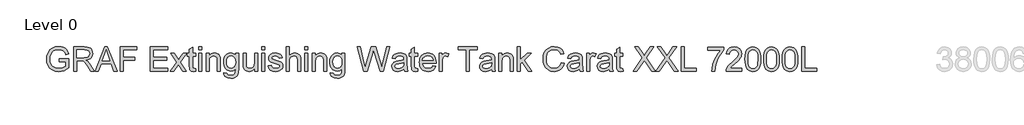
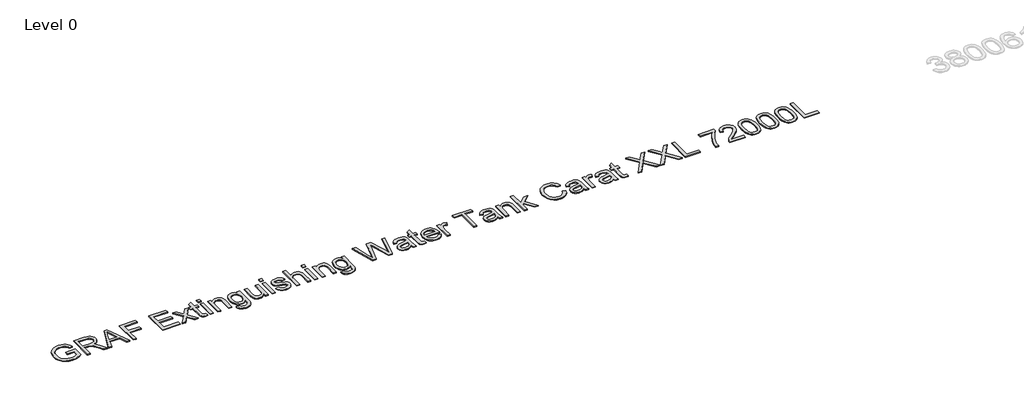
# One storey, part 33 of 37: 1 proxy.
"""IFC4 building model written with IfcOpenShell, lengths in millimetres."""

from ifc_helpers import new_model, si_unit, origin, origin_with_axes, place, context, project, spatial, polyline, outline, extrude, element, save

model = new_model("IFC4")

# Units and contexts
model_context = context("Model", 3, world=origin())
ifc_project = project(units=[si_unit("LENGTHUNIT", "METRE", prefix="MILLI")], contexts=[model_context])

# Site, building, storey
site = spatial("IfcSite", under=ifc_project)
building = spatial("IfcBuilding", under=site)
storey = spatial("IfcBuildingStorey", under=building, Name="Level 0", Elevation=0.0)

# Proxy
placement = place(None, origin())
element("IfcBuildingElementProxy", 1, Name="300mm Arial", ObjectType="300mm Arial", at=placement, inside=storey, context=model_context, shape_type="SweptSolid", body=[
    extrude(outline(polyline([(16759.0059613, -1583.2545597), (16759.0059613, -1545.5834434), (16881.4370893, -1545.5834434), (16881.4370893, -1658.2289103), (16851.6846329, -1678.9222726), (16820.9940775, -1693.7663111), (16789.4389993, -1702.7058436), (16757.0929749, -1705.6856877), (16714.8325307, -1700.949207), (16676.6371825, -1686.739765), (16644.9073605, -1663.5540022), (16622.0434945, -1631.8885595), (16608.2203285, -1593.9047435), (16603.6126065, -1551.7638609), (16608.2019344, -1509.3194757), (16621.9699181, -1469.8365406), (16644.3463404, -1436.717964), (16674.7609844, -1413.3666543), (16711.8067013, -1399.5158972), (16754.0763425, -1394.8989782), (16785.1071888, -1397.5753197), (16813.0110382, -1405.6043443), (16836.5095006, -1418.4066377), (16854.3241862, -1435.4027859), (16867.5035587, -1457.4113262), (16877.0960817, -1485.2507962), (16842.3680214, -1495.0364573), (16834.6149083, -1475.1800266), (16825.1879322, -1460.1980323), (16812.7167326, -1448.9040551), (16795.830949, -1440.1116754), (16775.6986068, -1434.4554897), (16753.4877313, -1432.5700945), (16727.4876713, -1434.6026425), (16705.2584018, -1440.7002866), (16686.8826961, -1450.0996716), (16672.4433278, -1462.0374423), (16653.0559467, -1491.0633317), (16644.2267788, -1519.50061), (16641.2837228, -1550.2187566), (16644.824587, -1586.2436009), (16655.4471796, -1615.8856927), (16672.8296039, -1638.9334997), (16696.6499631, -1655.1754898), (16724.5262213, -1664.804801), (16754.0763425, -1668.0145714), (16780.168373, -1665.5957473), (16805.6166101, -1658.3392749), (16827.7171209, -1648.3420817), (16843.765973, -1637.701095), (16843.765973, -1583.2545597), (16759.0059613, -1583.2545597)])), origin_with_axes(), (0.0, 0.0, 1.0), 10.0),
    extrude(outline(polyline([(16942.6526533, -1700.9767982), (16942.6526533, -1399.6078677), (17072.5149976, -1399.6078677), (17107.4178018, -1401.6404158), (17132.8108566, -1407.7380598), (17151.3705032, -1418.9952489), (17165.7730833, -1436.5064318), (17175.0161185, -1458.2206666), (17178.0971302, -1482.087011), (17172.9927675, -1511.7750881), (17157.6796794, -1536.3863935), (17146.0799003, -1546.4157764), (17131.6980135, -1554.4310054), (17094.5879173, -1564.4190016), (17115.9986494, -1580.532233), (17146.532855, -1619.3069952), (17196.7855355, -1700.9767982), (17153.0075781, -1700.9767982), (17113.7913574, -1638.5104354), (17085.4644438, -1597.1604991), (17065.5620278, -1577.6259652), (17047.6461747, -1570.4522663), (17025.7939842, -1569.1278911), (16980.3237696, -1569.1278911), (16980.3237696, -1700.9767982), (16942.6526533, -1700.9767982)]), holes=[polyline([(16980.3237696, -1531.4567748), (17064.6423229, -1531.4567748), (17088.8581552, -1530.1232026), (17107.6477281, -1526.1224859), (17121.7927908, -1519.1879103), (17132.0750926, -1509.0527613), (17138.3382835, -1496.7930938), (17140.4260139, -1483.4849626), (17136.4436913, -1465.109257), (17124.4967235, -1450.3020067), (17103.941317, -1440.5347397), (17074.1336783, -1437.278984), (16980.3237696, -1437.278984), (16980.3237696, -1531.4567748)])]), origin_with_axes(), (0.0, 0.0, 1.0), 10.0),
    extrude(outline(polyline([(17208.9256414, -1700.9767982), (17329.2230538, -1399.6078677), (17361.3023638, -1399.6078677), (17481.5997762, -1700.9767982), (17441.7949443, -1700.9767982), (17407.2876132, -1606.7990074), (17283.164228, -1606.7990074), (17248.7304732, -1700.9767982), (17208.9256414, -1700.9767982)]), holes=[polyline([(17296.996591, -1569.1278911), (17393.5288265, -1569.1278911), (17366.3791353, -1495.0364573), (17345.2627088, -1437.278984), (17326.500727, -1488.5617342), (17296.996591, -1569.1278911)])]), origin_with_axes(), (0.0, 0.0, 1.0), 10.0),
    extrude(outline(polyline([(17521.8460665, -1700.9767982), (17521.8460665, -1399.6078677), (17724.3283166, -1399.6078677), (17724.3283166, -1437.278984), (17559.5171828, -1437.278984), (17559.5171828, -1526.7478853), (17700.7838689, -1526.7478853), (17700.7838689, -1564.4190016), (17559.5171828, -1564.4190016), (17559.5171828, -1700.9767982), (17521.8460665, -1700.9767982)])), origin_with_axes(), (0.0, 0.0, 1.0), 10.0),
    extrude(outline(polyline([(17893.84834, -1700.9767982), (17893.84834, -1399.6078677), (18110.4572587, -1399.6078677), (18110.4572587, -1437.278984), (17931.5194563, -1437.278984), (17931.5194563, -1526.7478853), (18101.0394797, -1526.7478853), (18101.0394797, -1564.4190016), (17931.5194563, -1564.4190016), (17931.5194563, -1663.3056819), (18115.1661483, -1663.3056819), (18115.1661483, -1700.9767982), (17893.84834, -1700.9767982)])), origin_with_axes(), (0.0, 0.0, 1.0), 10.0),
    extrude(outline(polyline([(18143.4194855, -1700.9767982), (18223.9120661, -1589.7292828), (18148.1283751, -1479.6589899), (18193.4514369, -1479.6589899), (18230.0189072, -1532.6339972), (18247.0886318, -1557.6499729), (18261.877488, -1537.1957339), (18303.5217298, -1479.6589899), (18348.8447916, -1479.6589899), (18269.2351279, -1589.7292828), (18345.9017357, -1700.9767982), (18300.5786739, -1700.9767982), (18254.4462717, -1634.0958515), (18245.9849858, -1621.8821692), (18188.7425473, -1700.9767982), (18143.4194855, -1700.9767982)])), origin_with_axes(), (0.0, 0.0, 1.0), 10.0),
    extrude(outline(polyline([(18458.9150846, -1669.5596758), (18463.6239741, -1702.0804442), (18435.4442133, -1705.6856877), (18417.3628132, -1704.1221892), (18403.8799381, -1699.4316938), (18394.3517944, -1692.2028126), (18388.1345887, -1683.0241568), (18384.7132861, -1667.2604133), (18383.572852, -1640.276269), (18383.572852, -1517.3301062), (18355.3195147, -1517.3301062), (18355.3195147, -1479.6589899), (18383.572852, -1479.6589899), (18383.572852, -1425.8746422), (18421.2439683, -1403.7281461), (18421.2439683, -1479.6589899), (18458.9150846, -1479.6589899), (18458.9150846, -1517.3301062), (18421.2439683, -1517.3301062), (18421.2439683, -1639.172623), (18423.230531, -1658.5967923), (18429.668466, -1665.4761856), (18442.5075476, -1668.0145714), (18458.9150846, -1669.5596758)])), origin_with_axes(), (0.0, 0.0, 1.0), 10.0),
    extrude(outline(polyline([(18496.5862009, -1437.278984), (18496.5862009, -1399.6078677), (18534.2573172, -1399.6078677), (18534.2573172, -1437.278984), (18496.5862009, -1437.278984)])), origin_with_axes(), (0.0, 0.0, 1.0), 10.0),
    extrude(outline(polyline([(18496.5862009, -1700.9767982), (18496.5862009, -1479.6589899), (18534.2573172, -1479.6589899), (18534.2573172, -1700.9767982), (18496.5862009, -1700.9767982)])), origin_with_axes(), (0.0, 0.0, 1.0), 10.0),
    extrude(outline(polyline([(18590.7639916, -1700.9767982), (18590.7639916, -1479.6589899), (18628.435108, -1479.6589899), (18628.435108, -1510.5610775), (18641.5225099, -1494.981275), (18657.2402682, -1483.8528446), (18675.5883827, -1477.1757864), (18696.5668535, -1474.9501003), (18715.1356972, -1476.7435251), (18732.1410424, -1482.1237992), (18746.3228933, -1490.4195382), (18756.4212541, -1500.9593574), (18767.7152313, -1528.6608716), (18769.7017941, -1565.0811892), (18769.7017941, -1700.9767982), (18732.0306778, -1700.9767982), (18732.0306778, -1570.1579607), (18727.6896703, -1536.8278519), (18721.6839967, -1526.9042351), (18712.3489911, -1519.2063044), (18700.3836292, -1514.2674886), (18686.4868868, -1512.6212166), (18664.4231641, -1516.3184307), (18645.6151971, -1527.4100729), (18638.0989081, -1536.4645685), (18632.7301302, -1548.8391991), (18628.435108, -1583.5488653), (18628.435108, -1700.9767982), (18590.7639916, -1700.9767982)])), origin_with_axes(), (0.0, 0.0, 1.0), 10.0),
    extrude(outline(polyline([(18812.0817999, -1719.8123563), (18849.7529163, -1724.5212459), (18853.9099828, -1736.2934697), (18861.9665985, -1744.3868736), (18877.8039184, -1750.6776557), (18898.5340688, -1752.7745831), (18920.6437767, -1750.4017442), (18937.0881019, -1743.2832276), (18948.4924438, -1731.8788858), (18955.4822017, -1716.6485712), (18958.0573756, -1672.7234609), (18945.5217966, -1685.084296), (18931.5330838, -1693.9134639), (18916.091237, -1699.2109646), (18899.1962564, -1700.9767982), (18878.5419816, -1698.9212575), (18860.3571148, -1692.7546356), (18844.6416558, -1682.4769323), (18831.3956047, -1668.0881478), (18820.8856759, -1650.8252852), (18813.378584, -1631.9253477), (18808.8743288, -1611.3883353), (18807.3729104, -1589.214248), (18810.067646, -1558.7996041), (18818.1518529, -1530.8313754), (18831.3404224, -1507.1305779), (18849.3482461, -1489.5182274), (18871.5591215, -1478.5921321), (18897.3568464, -1474.9501003), (18914.9737955, -1477.0102395), (18930.9628667, -1483.190657), (18945.3240601, -1493.4913529), (18958.0573756, -1507.9123271), (18958.0573756, -1479.6589899), (18995.7284919, -1479.6589899), (18995.7284919, -1670.7368982), (18993.153318, -1714.8551464), (18985.4277961, -1743.908627), (18972.1196649, -1763.1764465), (18952.7966631, -1777.9377116), (18927.881855, -1787.3187024), (18897.7983048, -1790.4456994), (18862.7483477, -1786.0403125), (18835.148001, -1772.8241518), (18824.7530354, -1762.9028343), (18817.44368, -1750.7604292), (18813.2199349, -1736.3969365), (18812.0817999, -1719.8123563)]), holes=[polyline([(18845.0440267, -1586.6390741), (18849.0631375, -1621.1923905), (18861.1204699, -1644.9483703), (18879.2478552, -1658.716354), (18901.4771248, -1663.3056819), (18923.5408474, -1658.7439451), (18941.7602032, -1645.0587349), (18953.9830825, -1621.6062577), (18958.0573756, -1587.7427201), (18953.8635209, -1555.0839959), (18941.2819567, -1531.5671394), (18922.7958864, -1517.3576973), (18900.8885136, -1512.6212166), (18879.3766139, -1517.2841209), (18861.3411991, -1531.2728338), (18849.1183198, -1554.4402024), (18845.0440267, -1586.6390741)])]), origin_with_axes(), (0.0, 0.0, 1.0), 10.0),
    extrude(outline(polyline([(19193.5018525, -1700.9767982), (19193.5018525, -1662.9377999), (19179.8718246, -1681.6400008), (19163.9977165, -1694.9987158), (19145.8795283, -1703.0139447), (19125.5172598, -1705.6856877), (19107.1691453, -1703.8094895), (19090.0902237, -1698.180895), (19075.76122, -1689.7196091), (19065.6628592, -1679.3453369), (19054.4424584, -1651.6070344), (19052.2351664, -1616.5846685), (19052.2351664, -1479.6589899), (19089.9062827, -1479.6589899), (19089.9062827, -1598.8527563), (19092.1871511, -1637.2596366), (19097.6777899, -1650.0711271), (19107.0863719, -1659.8108029), (19119.7874978, -1665.9636293), (19135.1557681, -1668.0145714), (19151.4069552, -1665.917644), (19166.6096787, -1659.6268619), (19179.1452577, -1649.7216392), (19187.3950114, -1636.78139), (19191.9751423, -1619.0586749), (19193.5018525, -1594.8060544), (19193.5018525, -1479.6589899), (19231.1729689, -1479.6589899), (19231.1729689, -1700.9767982), (19193.5018525, -1700.9767982)])), origin_with_axes(), (0.0, 0.0, 1.0), 10.0),
    extrude(outline(polyline([(19282.9707538, -1437.278984), (19282.9707538, -1399.6078677), (19320.6418701, -1399.6078677), (19320.6418701, -1437.278984), (19282.9707538, -1437.278984)])), origin_with_axes(), (0.0, 0.0, 1.0), 10.0),
    extrude(outline(polyline([(19282.9707538, -1700.9767982), (19282.9707538, -1479.6589899), (19320.6418701, -1479.6589899), (19320.6418701, -1700.9767982), (19282.9707538, -1700.9767982)])), origin_with_axes(), (0.0, 0.0, 1.0), 10.0),
    extrude(outline(polyline([(19363.0218759, -1635.0523446), (19400.6929922, -1630.3434551), (19406.6342865, -1646.4566865), (19418.1305988, -1658.3024867), (19435.2555057, -1665.5865502), (19458.0825835, -1668.0145714), (19480.6337498, -1665.7888853), (19496.4894638, -1659.1118271), (19505.8704547, -1649.4365307), (19508.9974516, -1638.2161298), (19505.8520606, -1628.6144097), (19496.4158874, -1621.293558), (19457.6411251, -1610.5514038), (19400.9137214, -1592.1205158), (19386.5571266, -1582.8590866), (19376.1552632, -1570.5994191), (19369.8368899, -1556.1232626), (19367.7307655, -1540.2123663), (19369.4230226, -1525.6166481), (19374.4997942, -1512.1429701), (19382.5012276, -1500.324761), (19392.9674703, -1490.6954497), (19416.9165882, -1479.5486253), (19449.326992, -1474.9501003), (19473.846327, -1476.7987074), (19495.1650886, -1482.3445284), (19512.3083896, -1491.0449376), (19524.3013426, -1502.357309), (19532.2475937, -1517.118574), (19537.2507888, -1536.1656643), (19499.5796725, -1540.8745539), (19494.8247977, -1529.0195566), (19485.4162157, -1520.0892211), (19471.261956, -1514.4882178), (19452.270048, -1512.6212166), (19430.6385866, -1514.4054443), (19416.2176124, -1519.7581274), (19408.1058144, -1527.4836493), (19405.4018818, -1536.3863935), (19409.8900421, -1547.349277), (19423.9431343, -1555.6634101), (19456.3903263, -1563.6832376), (19511.6829902, -1581.4151497), (19526.2879054, -1589.8948297), (19537.3611534, -1601.5015067), (19544.3417143, -1616.2719688), (19546.6685679, -1634.2430043), (19543.9370441, -1652.821045), (19535.7424727, -1670.2954398), (19522.3975533, -1685.2958281), (19504.2149857, -1696.4518496), (19482.2524306, -1703.3772282), (19457.5675487, -1705.6856877), (19419.5837327, -1701.2343156), (19391.8638243, -1687.8801992), (19373.35936, -1665.7704912), (19363.0218759, -1635.0523446)])), origin_with_axes(), (0.0, 0.0, 1.0), 10.0),
    extrude(outline(polyline([(19589.0485738, -1700.9767982), (19589.0485738, -1399.6078677), (19626.7196901, -1399.6078677), (19626.7196901, -1510.4139247), (19640.5566516, -1494.8985015), (19656.0950674, -1483.8160564), (19673.3349374, -1477.1665894), (19692.2762616, -1474.9501003), (19715.029763, -1477.3689245), (19734.5826911, -1484.6253968), (19749.9785526, -1496.1493003), (19760.2608543, -1511.3704179), (19766.0549957, -1532.2845093), (19767.9863762, -1560.8873344), (19767.9863762, -1700.9767982), (19730.3152599, -1700.9767982), (19730.3152599, -1564.7868836), (19727.3170216, -1541.2056477), (19718.3223069, -1525.0556281), (19703.8277563, -1515.7298195), (19684.3300105, -1512.6212166), (19668.4099172, -1514.718144), (19653.4647111, -1521.0089261), (19641.085482, -1530.8865577), (19632.8633194, -1543.7440334), (19628.2555974, -1560.8321521), (19626.7196901, -1583.4017125), (19626.7196901, -1700.9767982), (19589.0485738, -1700.9767982)])), origin_with_axes(), (0.0, 0.0, 1.0), 10.0),
    extrude(outline(polyline([(19819.7841611, -1437.278984), (19819.7841611, -1399.6078677), (19857.4552774, -1399.6078677), (19857.4552774, -1437.278984), (19819.7841611, -1437.278984)])), origin_with_axes(), (0.0, 0.0, 1.0), 10.0),
    extrude(outline(polyline([(19819.7841611, -1700.9767982), (19819.7841611, -1479.6589899), (19857.4552774, -1479.6589899), (19857.4552774, -1700.9767982), (19819.7841611, -1700.9767982)])), origin_with_axes(), (0.0, 0.0, 1.0), 10.0),
    extrude(outline(polyline([(19913.9619519, -1700.9767982), (19913.9619519, -1479.6589899), (19951.6330682, -1479.6589899), (19951.6330682, -1510.5610775), (19964.7204702, -1494.981275), (19980.4382284, -1483.8528446), (19998.7863429, -1477.1757864), (20019.7648137, -1474.9501003), (20038.3336574, -1476.7435251), (20055.3390026, -1482.1237992), (20069.5208536, -1490.4195382), (20079.6192143, -1500.9593574), (20090.9131916, -1528.6608716), (20092.8997544, -1565.0811892), (20092.8997544, -1700.9767982), (20055.228638, -1700.9767982), (20055.228638, -1570.1579607), (20050.8876305, -1536.8278519), (20044.8819569, -1526.9042351), (20035.5469513, -1519.2063044), (20023.5815894, -1514.2674886), (20009.684847, -1512.6212166), (19987.6211244, -1516.3184307), (19968.8131574, -1527.4100729), (19961.2968684, -1536.4645685), (19955.9280905, -1548.8391991), (19951.6330682, -1583.5488653), (19951.6330682, -1700.9767982), (19913.9619519, -1700.9767982)])), origin_with_axes(), (0.0, 0.0, 1.0), 10.0),
    extrude(outline(polyline([(20135.2797602, -1719.8123563), (20172.9508765, -1724.5212459), (20177.1079431, -1736.2934697), (20185.1645587, -1744.3868736), (20201.0018786, -1750.6776557), (20221.7320291, -1752.7745831), (20243.841737, -1750.4017442), (20260.2860622, -1743.2832276), (20271.690404, -1731.8788858), (20278.6801619, -1716.6485712), (20281.2553359, -1672.7234609), (20268.7197569, -1685.084296), (20254.731044, -1693.9134639), (20239.2891973, -1699.2109646), (20222.3942167, -1700.9767982), (20201.7399419, -1698.9212575), (20183.555075, -1692.7546356), (20167.839616, -1682.4769323), (20154.5935649, -1668.0881478), (20144.0836362, -1650.8252852), (20136.5765442, -1631.9253477), (20132.0722891, -1611.3883353), (20130.5708707, -1589.214248), (20133.2656063, -1558.7996041), (20141.3498131, -1530.8313754), (20154.5383826, -1507.1305779), (20172.5462063, -1489.5182274), (20194.7570818, -1478.5921321), (20220.5548067, -1474.9501003), (20238.1717557, -1477.0102395), (20254.1608269, -1483.190657), (20268.5220203, -1493.4913529), (20281.2553359, -1507.9123271), (20281.2553359, -1479.6589899), (20318.9264522, -1479.6589899), (20318.9264522, -1670.7368982), (20316.3512782, -1714.8551464), (20308.6257563, -1743.908627), (20295.3176252, -1763.1764465), (20275.9946234, -1777.9377116), (20251.0798152, -1787.3187024), (20220.9962651, -1790.4456994), (20185.946308, -1786.0403125), (20158.3459613, -1772.8241518), (20147.9509957, -1762.9028343), (20140.6416403, -1750.7604292), (20136.4178951, -1736.3969365), (20135.2797602, -1719.8123563)]), holes=[polyline([(20168.241987, -1586.6390741), (20172.2610978, -1621.1923905), (20184.3184302, -1644.9483703), (20202.4458155, -1658.716354), (20224.675085, -1663.3056819), (20246.7388077, -1658.7439451), (20264.9581635, -1645.0587349), (20277.1810428, -1621.6062577), (20281.2553359, -1587.7427201), (20277.0614811, -1555.0839959), (20264.4799169, -1531.5671394), (20245.9938466, -1517.3576973), (20224.0864738, -1512.6212166), (20202.5745742, -1517.2841209), (20184.5391594, -1531.2728338), (20172.3162801, -1554.4402024), (20168.241987, -1586.6390741)])]), origin_with_axes(), (0.0, 0.0, 1.0), 10.0),
    extrude(outline(polyline([(20551.7957551, -1700.9767982), (20469.6109174, -1399.6078677), (20508.4592561, -1399.6078677), (20556.1367627, -1597.6755339), (20570.8520425, -1658.8175215), (20586.5973919, -1604.7388682), (20646.3414279, -1399.6078677), (20702.3330676, -1399.6078677), (20745.743143, -1548.3057702), (20764.3395779, -1603.4880695), (20778.0431822, -1658.8175215), (20792.3170036, -1599.4413675), (20840.4359686, -1399.6078677), (20879.2843072, -1399.6078677), (20797.0258931, -1700.9767982), (20756.7796029, -1700.9767982), (20684.527579, -1468.4753772), (20674.4476123, -1436.0281853), (20663.1168469, -1475.0972531), (20597.2659697, -1700.9767982), (20551.7957551, -1700.9767982)])), origin_with_axes(), (0.0, 0.0, 1.0), 10.0),
    extrude(outline(polyline([(21053.5132202, -1672.7234609), (21035.5145935, -1688.1561106), (21016.982538, -1698.2544714), (20997.4939893, -1703.8278836), (20976.6258832, -1705.6856877), (20945.1443814, -1701.2159215), (20921.9218305, -1687.8066228), (20907.6020238, -1667.4443543), (20902.8287549, -1642.115679), (20904.6313767, -1626.4990883), (20910.039242, -1612.3172373), (20918.3809663, -1600.1771315), (20928.9851648, -1590.685776), (20955.3623038, -1578.324941), (20987.9566486, -1572.6595583), (21026.4738935, -1566.6998699), (21053.292491, -1559.710112), (21053.5132202, -1551.3224025), (21050.9196521, -1534.5101954), (21043.1389479, -1523.5105237), (21025.7381295, -1515.3435434), (21001.494706, -1512.6212166), (20979.0539043, -1514.4330355), (20963.3821313, -1519.868492), (20952.6951594, -1529.9208675), (20945.2087608, -1545.5834434), (20907.5376445, -1540.8745539), (20914.0767469, -1520.2731621), (20923.8348169, -1504.0863544), (20937.7223622, -1491.7071252), (20956.6498908, -1482.5284694), (20979.7988654, -1476.8446926), (21006.3507484, -1474.9501003), (21031.8173795, -1476.6239634), (21052.004904, -1481.6455527), (21067.2260215, -1489.1963306), (21077.7934318, -1498.4577598), (21084.8015838, -1509.9080869), (21089.3449265, -1524.0255585), (21091.1843365, -1556.9877853), (21091.1843365, -1603.8559515), (21093.0973228, -1669.3021584), (21100.6021155, -1700.9767982), (21062.9309992, -1700.9767982), (21053.5132202, -1672.7234609)]), holes=[polyline([(21053.5132202, -1597.3812283), (20992.7391146, -1608.932723), (20960.3287108, -1615.0395641), (20945.6502192, -1624.972378), (20940.4998712, -1639.4669286), (20943.3049715, -1650.6689353), (20951.7202721, -1659.8475911), (20965.5618322, -1665.9728263), (20984.6457107, -1668.0145714), (21004.8792204, -1665.7612942), (21022.7582854, -1659.0014625), (21037.252836, -1649.0410575), (21047.3328026, -1637.1860602), (21051.8025689, -1624.972378), (21053.292491, -1608.0498062), (21053.5132202, -1597.3812283)])]), origin_with_axes(), (0.0, 0.0, 1.0), 10.0),
    extrude(outline(polyline([(21223.0332435, -1669.5596758), (21227.7421331, -1702.0804442), (21199.5623722, -1705.6856877), (21181.4809722, -1704.1221892), (21167.9980971, -1699.4316938), (21158.4699534, -1692.2028126), (21152.2527477, -1683.0241568), (21148.8314451, -1667.2604133), (21147.6910109, -1640.276269), (21147.6910109, -1517.3301062), (21119.4376737, -1517.3301062), (21119.4376737, -1479.6589899), (21147.6910109, -1479.6589899), (21147.6910109, -1425.8746422), (21185.3621272, -1403.7281461), (21185.3621272, -1479.6589899), (21223.0332435, -1479.6589899), (21223.0332435, -1517.3301062), (21185.3621272, -1517.3301062), (21185.3621272, -1639.172623), (21187.34869, -1658.5967923), (21193.7866249, -1665.4761856), (21206.6257066, -1668.0145714), (21223.0332435, -1669.5596758)])), origin_with_axes(), (0.0, 0.0, 1.0), 10.0),
    extrude(outline(polyline([(21415.6562562, -1635.0523446), (21452.5916085, -1639.7612342), (21439.2834774, -1667.5915071), (21418.0474892, -1688.3952339), (21389.3618906, -1701.3630743), (21353.7049282, -1705.6856877), (21330.330626, -1703.8209859), (21309.5039065, -1698.2268803), (21291.2247699, -1688.9033709), (21275.493216, -1675.8504579), (21262.8426739, -1659.4314246), (21253.8065724, -1640.0095545), (21248.3849115, -1617.5848477), (21246.5776912, -1592.157304), (21248.4033056, -1565.8675369), (21253.8801488, -1542.6955698), (21263.0082208, -1522.6414025), (21275.7875216, -1505.7050351), (21291.4776887, -1492.2497512), (21309.3383596, -1482.638834), (21329.3695342, -1476.8722838), (21351.5712127, -1474.9501003), (21373.0578204, -1476.8676852), (21392.4888876, -1482.6204399), (21409.8644141, -1492.2083644), (21425.1843999, -1505.6314587), (21437.6900885, -1522.5310379), (21446.6227232, -1542.548417), (21451.982304, -1565.6835959), (21453.7688309, -1591.9365748), (21453.5481017, -1602.0901179), (21284.2488075, -1602.0901179), (21290.7695159, -1630.2882728), (21305.9170571, -1651.0184232), (21327.7784446, -1663.7655344), (21354.4406922, -1668.0145714), (21374.490261, -1666.0464027), (21391.3760445, -1660.1418967), (21405.098043, -1649.9331713), (21415.6562562, -1635.0523446)]), holes=[polyline([(21284.2488075, -1564.4190016), (21416.0977146, -1564.4190016), (21411.002549, -1544.5165856), (21401.0145528, -1530.2795524), (21379.0519977, -1517.0358006), (21351.4240599, -1512.6212166), (21326.0310051, -1516.1436868), (21305.0341403, -1526.7110971), (21290.4384221, -1543.1830134), (21284.2488075, -1564.4190016)])]), origin_with_axes(), (0.0, 0.0, 1.0), 10.0),
    extrude(outline(polyline([(21491.4399472, -1700.9767982), (21491.4399472, -1479.6589899), (21524.402174, -1479.6589899), (21524.402174, -1512.4004875), (21536.579068, -1493.4177765), (21547.7994689, -1482.2341638), (21559.0566579, -1476.7711162), (21571.3439166, -1474.9501003), (21590.1058983, -1477.8563681), (21609.1621857, -1486.5751714), (21596.5806214, -1520.3467385), (21583.3368696, -1514.5525971), (21570.0931178, -1512.6212166), (21558.8451258, -1514.4790207), (21548.7927503, -1520.052433), (21540.6717552, -1528.918389), (21535.2179046, -1540.6538247), (21530.6377738, -1561.6966748), (21529.1110635, -1584.6525113), (21529.1110635, -1700.9767982), (21491.4399472, -1700.9767982)])), origin_with_axes(), (0.0, 0.0, 1.0), 10.0),
    extrude(outline(polyline([(21830.479994, -1700.9767982), (21830.479994, -1437.278984), (21731.5933137, -1437.278984), (21731.5933137, -1399.6078677), (21967.0377906, -1399.6078677), (21967.0377906, -1437.278984), (21868.1511103, -1437.278984), (21868.1511103, -1700.9767982), (21830.479994, -1700.9767982)])), origin_with_axes(), (0.0, 0.0, 1.0), 10.0),
    extrude(outline(polyline([(22145.975593, -1672.7234609), (22127.9769664, -1688.1561106), (22109.4449109, -1698.2544714), (22089.9563622, -1703.8278836), (22069.088256, -1705.6856877), (22037.6067543, -1701.2159215), (22014.3842034, -1687.8066228), (22000.0643967, -1667.4443543), (21995.2911278, -1642.115679), (21997.0937496, -1626.4990883), (22002.5016149, -1612.3172373), (22010.8433392, -1600.1771315), (22021.4475377, -1590.685776), (22047.8246767, -1578.324941), (22080.4190215, -1572.6595583), (22118.9362664, -1566.6998699), (22145.7548638, -1559.710112), (22145.975593, -1551.3224025), (22143.382025, -1534.5101954), (22135.6013208, -1523.5105237), (22118.2005024, -1515.3435434), (22093.9570789, -1512.6212166), (22071.5162772, -1514.4330355), (22055.8445042, -1519.868492), (22045.1575323, -1529.9208675), (22037.6711337, -1545.5834434), (22000.0000174, -1540.8745539), (22006.5391198, -1520.2731621), (22016.2971897, -1504.0863544), (22030.1847351, -1491.7071252), (22049.1122637, -1482.5284694), (22072.2612383, -1476.8446926), (22098.8131213, -1474.9501003), (22124.2797524, -1476.6239634), (22144.4672769, -1481.6455527), (22159.6883944, -1489.1963306), (22170.2558047, -1498.4577598), (22177.2639567, -1509.9080869), (22181.8072994, -1524.0255585), (22183.6467093, -1556.9877853), (22183.6467093, -1603.8559515), (22185.5596957, -1669.3021584), (22193.0644884, -1700.9767982), (22155.3933721, -1700.9767982), (22145.975593, -1672.7234609)]), holes=[polyline([(22145.975593, -1597.3812283), (22085.2014874, -1608.932723), (22052.7910837, -1615.0395641), (22038.1125921, -1624.972378), (22032.9622441, -1639.4669286), (22035.7673443, -1650.6689353), (22044.182645, -1659.8475911), (22058.024205, -1665.9728263), (22077.1080835, -1668.0145714), (22097.3415933, -1665.7612942), (22115.2206582, -1659.0014625), (22129.7152089, -1649.0410575), (22139.7951755, -1637.1860602), (22144.2649418, -1624.972378), (22145.7548638, -1608.0498062), (22145.975593, -1597.3812283)])]), origin_with_axes(), (0.0, 0.0, 1.0), 10.0),
    extrude(outline(polyline([(22235.4444943, -1700.9767982), (22235.4444943, -1479.6589899), (22273.1156106, -1479.6589899), (22273.1156106, -1510.5610775), (22286.2030125, -1494.981275), (22301.9207708, -1483.8528446), (22320.2688853, -1477.1757864), (22341.2473561, -1474.9501003), (22359.8161998, -1476.7435251), (22376.821545, -1482.1237992), (22391.0033959, -1490.4195382), (22401.1017567, -1500.9593574), (22412.3957339, -1528.6608716), (22414.3822967, -1565.0811892), (22414.3822967, -1700.9767982), (22376.7111804, -1700.9767982), (22376.7111804, -1570.1579607), (22372.3701729, -1536.8278519), (22366.3644993, -1526.9042351), (22357.0294937, -1519.2063044), (22345.0641318, -1514.2674886), (22331.1673894, -1512.6212166), (22309.1036667, -1516.3184307), (22290.2956997, -1527.4100729), (22282.7794107, -1536.4645685), (22277.4106329, -1548.8391991), (22273.1156106, -1583.5488653), (22273.1156106, -1700.9767982), (22235.4444943, -1700.9767982)])), origin_with_axes(), (0.0, 0.0, 1.0), 10.0),
    extrude(outline(polyline([(22466.1800816, -1700.9767982), (22466.1800816, -1399.6078677), (22503.8511979, -1399.6078677), (22503.8511979, -1561.549522), (22588.316904, -1479.6589899), (22640.4089946, -1479.6589899), (22554.9132189, -1562.5795916), (22645.1178841, -1700.9767982), (22601.1191975, -1700.9767982), (22527.9106804, -1588.7727896), (22503.8511979, -1612.0965081), (22503.8511979, -1700.9767982), (22466.1800816, -1700.9767982)])), origin_with_axes(), (0.0, 0.0, 1.0), 10.0),
    extrude(outline(polyline([(23012.4112681, -1593.8495612), (23050.0823844, -1603.5616459), (23042.6281755, -1626.9888312), (23032.6999601, -1647.4591649), (23020.2977383, -1664.9726472), (23005.4215102, -1679.5292779), (22988.4069679, -1690.9727072), (22969.5898038, -1699.1465853), (22948.970018, -1704.0509121), (22926.5476104, -1705.6856877), (22882.8524264, -1700.7376749), (22848.1519572, -1685.8936364), (22821.554089, -1661.668607), (22802.1667078, -1628.5776215), (22790.3301046, -1589.6741005), (22786.3845702, -1548.0114646), (22790.8451394, -1504.0679603), (22804.226847, -1466.1209325), (22825.8307172, -1435.3751947), (22854.9577741, -1413.0355606), (22889.5018935, -1399.4331238), (22927.3569508, -1394.8989782), (22968.6609018, -1400.766696), (22986.629638, -1408.1013433), (23002.809548, -1418.3698495), (23016.9339174, -1431.3009016), (23028.7360316, -1446.6231867), (23045.3734948, -1484.4414558), (23007.7023785, -1493.4177765), (22994.6425677, -1465.9461885), (22976.8002909, -1447.1014333), (22953.954819, -1436.2029292), (22925.8854228, -1432.5700945), (22893.5302013, -1436.5984023), (22866.9507272, -1448.6833259), (22846.7815968, -1467.5556722), (22833.6574066, -1491.9462485), (22826.4561166, -1519.5190041), (22824.0556865, -1547.9378882), (22826.897575, -1582.7395249), (22835.4232402, -1612.8322721), (22849.954579, -1637.0664986), (22870.8134881, -1654.292573), (22895.8202668, -1664.5840718), (22922.7952141, -1668.0145714), (22954.2399276, -1663.3424701), (22980.4423227, -1649.3261661), (23000.225177, -1626.1128122), (23012.4112681, -1593.8495612)])), origin_with_axes(), (0.0, 0.0, 1.0), 10.0),
    extrude(outline(polyline([(23238.4379659, -1672.7234609), (23220.4393393, -1688.1561106), (23201.9072838, -1698.2544714), (23182.4187351, -1703.8278836), (23161.5506289, -1705.6856877), (23130.0691272, -1701.2159215), (23106.8465762, -1687.8066228), (23092.5267696, -1667.4443543), (23087.7535007, -1642.115679), (23089.5561225, -1626.4990883), (23094.9639878, -1612.3172373), (23103.305712, -1600.1771315), (23113.9099105, -1590.685776), (23140.2870496, -1578.324941), (23172.8813944, -1572.6595583), (23211.3986393, -1566.6998699), (23238.2172367, -1559.710112), (23238.4379659, -1551.3224025), (23235.8443978, -1534.5101954), (23228.0636936, -1523.5105237), (23210.6628753, -1515.3435434), (23186.4194518, -1512.6212166), (23163.9786501, -1514.4330355), (23148.3068771, -1519.868492), (23137.6199051, -1529.9208675), (23130.1335065, -1545.5834434), (23092.4623902, -1540.8745539), (23099.0014927, -1520.2731621), (23108.7595626, -1504.0863544), (23122.6471079, -1491.7071252), (23141.5746366, -1482.5284694), (23164.7236111, -1476.8446926), (23191.2754941, -1474.9501003), (23216.7421252, -1476.6239634), (23236.9296497, -1481.6455527), (23252.1507673, -1489.1963306), (23262.7181776, -1498.4577598), (23269.7263296, -1509.9080869), (23274.2696722, -1524.0255585), (23276.1090822, -1556.9877853), (23276.1090822, -1603.8559515), (23278.0220686, -1669.3021584), (23285.5268613, -1700.9767982), (23247.855745, -1700.9767982), (23238.4379659, -1672.7234609)]), holes=[polyline([(23238.4379659, -1597.3812283), (23177.6638603, -1608.932723), (23145.2534565, -1615.0395641), (23130.5749649, -1624.972378), (23125.424617, -1639.4669286), (23128.2297172, -1650.6689353), (23136.6450178, -1659.8475911), (23150.4865779, -1665.9728263), (23169.5704564, -1668.0145714), (23189.8039662, -1665.7612942), (23207.6830311, -1659.0014625), (23222.1775817, -1649.0410575), (23232.2575484, -1637.1860602), (23236.7273146, -1624.972378), (23238.2172367, -1608.0498062), (23238.4379659, -1597.3812283)])]), origin_with_axes(), (0.0, 0.0, 1.0), 10.0),
    extrude(outline(polyline([(23327.9068671, -1700.9767982), (23327.9068671, -1479.6589899), (23360.8690939, -1479.6589899), (23360.8690939, -1512.4004875), (23373.0459879, -1493.4177765), (23384.2663888, -1482.2341638), (23395.5235779, -1476.7711162), (23407.8108365, -1474.9501003), (23426.5728182, -1477.8563681), (23445.6291056, -1486.5751714), (23433.0475414, -1520.3467385), (23419.8037895, -1514.5525971), (23406.5600377, -1512.6212166), (23395.3120457, -1514.4790207), (23385.2596702, -1520.052433), (23377.1386751, -1528.918389), (23371.6848246, -1540.6538247), (23367.1046937, -1561.6966748), (23365.5779834, -1584.6525113), (23365.5779834, -1700.9767982), (23327.9068671, -1700.9767982)])), origin_with_axes(), (0.0, 0.0, 1.0), 10.0),
    extrude(outline(polyline([(23610.4402394, -1672.7234609), (23592.4416128, -1688.1561106), (23573.9095573, -1698.2544714), (23554.4210086, -1703.8278836), (23533.5529024, -1705.6856877), (23502.0714007, -1701.2159215), (23478.8488498, -1687.8066228), (23464.5290431, -1667.4443543), (23459.7557742, -1642.115679), (23461.558396, -1626.4990883), (23466.9662613, -1612.3172373), (23475.3079856, -1600.1771315), (23485.9121841, -1590.685776), (23512.2893231, -1578.324941), (23544.8836679, -1572.6595583), (23583.4009128, -1566.6998699), (23610.2195102, -1559.710112), (23610.4402394, -1551.3224025), (23607.8466714, -1534.5101954), (23600.0659672, -1523.5105237), (23582.6651488, -1515.3435434), (23558.4217253, -1512.6212166), (23535.9809236, -1514.4330355), (23520.3091506, -1519.868492), (23509.6221787, -1529.9208675), (23502.1357801, -1545.5834434), (23464.4646638, -1540.8745539), (23471.0037662, -1520.2731621), (23480.7618361, -1504.0863544), (23494.6493815, -1491.7071252), (23513.5769101, -1482.5284694), (23536.7258847, -1476.8446926), (23563.2777677, -1474.9501003), (23588.7443988, -1476.6239634), (23608.9319233, -1481.6455527), (23624.1530408, -1489.1963306), (23634.7204511, -1498.4577598), (23641.7286031, -1509.9080869), (23646.2719458, -1524.0255585), (23648.1113557, -1556.9877853), (23648.1113557, -1603.8559515), (23650.0243421, -1669.3021584), (23657.5291348, -1700.9767982), (23619.8580185, -1700.9767982), (23610.4402394, -1672.7234609)]), holes=[polyline([(23610.4402394, -1597.3812283), (23549.6661338, -1608.932723), (23517.2557301, -1615.0395641), (23502.5772385, -1624.972378), (23497.4268905, -1639.4669286), (23500.2319907, -1650.6689353), (23508.6472914, -1659.8475911), (23522.4888514, -1665.9728263), (23541.5727299, -1668.0145714), (23561.8062397, -1665.7612942), (23579.6853046, -1659.0014625), (23594.1798552, -1649.0410575), (23604.2598219, -1637.1860602), (23608.7295882, -1624.972378), (23610.2195102, -1608.0498062), (23610.4402394, -1597.3812283)])]), origin_with_axes(), (0.0, 0.0, 1.0), 10.0),
    extrude(outline(polyline([(23779.9602628, -1669.5596758), (23784.6691524, -1702.0804442), (23756.4893915, -1705.6856877), (23738.4079915, -1704.1221892), (23724.9251163, -1699.4316938), (23715.3969727, -1692.2028126), (23709.1797669, -1683.0241568), (23705.7584644, -1667.2604133), (23704.6180302, -1640.276269), (23704.6180302, -1517.3301062), (23676.364693, -1517.3301062), (23676.364693, -1479.6589899), (23704.6180302, -1479.6589899), (23704.6180302, -1425.8746422), (23742.2891465, -1403.7281461), (23742.2891465, -1479.6589899), (23779.9602628, -1479.6589899), (23779.9602628, -1517.3301062), (23742.2891465, -1517.3301062), (23742.2891465, -1639.172623), (23744.2757093, -1658.5967923), (23750.7136442, -1665.4761856), (23763.5527258, -1668.0145714), (23779.9602628, -1669.5596758)])), origin_with_axes(), (0.0, 0.0, 1.0), 10.0),
    extrude(outline(polyline([(23907.1002803, -1700.9767982), (24023.2774144, -1536.7542755), (23925.9358385, -1399.6078677), (23971.1117475, -1399.6078677), (24025.9261648, -1476.7895103), (24044.3938409, -1506.8822575), (24066.0253023, -1476.2744755), (24120.2511084, -1399.6078677), (24166.089205, -1399.6078677), (24068.747629, -1537.1957339), (24184.9247631, -1700.9767982), (24139.7488541, -1700.9767982), (24062.3464823, -1591.789422), (24046.2332509, -1569.1278911), (24028.5013388, -1593.996714), (23952.9383769, -1700.9767982), (23907.1002803, -1700.9767982)])), origin_with_axes(), (0.0, 0.0, 1.0), 10.0),
    extrude(outline(polyline([(24189.6336526, -1700.9767982), (24305.8107867, -1536.7542755), (24208.4692108, -1399.6078677), (24253.6451198, -1399.6078677), (24308.4595371, -1476.7895103), (24326.9272132, -1506.8822575), (24348.5586746, -1476.2744755), (24402.7844806, -1399.6078677), (24448.6225772, -1399.6078677), (24351.2810013, -1537.1957339), (24467.4581354, -1700.9767982), (24422.2822264, -1700.9767982), (24344.8798546, -1591.789422), (24328.7666232, -1569.1278911), (24311.0347111, -1593.996714), (24235.4717492, -1700.9767982), (24189.6336526, -1700.9767982)])), origin_with_axes(), (0.0, 0.0, 1.0), 10.0),
    extrude(outline(polyline([(24505.1292517, -1700.9767982), (24505.1292517, -1399.6078677), (24542.800368, -1399.6078677), (24542.800368, -1663.3056819), (24693.4848332, -1663.3056819), (24693.4848332, -1700.9767982), (24505.1292517, -1700.9767982)])), origin_with_axes(), (0.0, 0.0, 1.0), 10.0),
    extrude(outline(polyline([(24839.4604089, -1441.9878736), (24839.4604089, -1404.3167573), (25037.2337695, -1404.3167573), (25037.2337695, -1434.7773865), (25009.0448116, -1470.452743), (24981.1317653, -1515.82179), (24956.5112627, -1566.7458552), (24938.1999364, -1619.0862661), (24929.2236157, -1658.2473044), (24924.2204206, -1700.9767982), (24886.5493043, -1700.9767982), (24890.6235974, -1662.1468536), (24901.5221015, -1615.9960573), (24918.950511, -1567.076949), (24942.6145204, -1519.9420684), (24970.2424582, -1477.3321363), (24999.5626532, -1441.9878736), (24839.4604089, -1441.9878736)])), origin_with_axes(), (0.0, 0.0, 1.0), 10.0),
    extrude(outline(polyline([(25263.2604674, -1663.3056819), (25263.2604674, -1700.9767982), (25065.4871068, -1700.9767982), (25069.5338087, -1675.0043293), (25078.8228291, -1654.7064402), (25092.4160688, -1635.0155564), (25112.0793614, -1614.4049677), (25139.5785406, -1591.3479636), (25180.2295011, -1555.2403458), (25204.6200773, -1528.5872952), (25216.8153655, -1506.9558339), (25220.8804615, -1485.9129838), (25217.0452917, -1467.0498345), (25205.5397823, -1451.3688645), (25187.8538554, -1440.8014541), (25165.477433, -1437.278984), (25141.9789706, -1440.7186807), (25123.7228266, -1451.0377707), (25111.9414057, -1467.4269135), (25107.8671126, -1489.076769), (25070.1959963, -1484.3678794), (25079.3286668, -1447.9291678), (25087.8750254, -1433.3932305), (25099.0747329, -1421.3129054), (25112.6702719, -1411.8169514), (25128.404125, -1405.0341272), (25166.2867734, -1399.6078677), (25186.4765972, -1401.1161839), (25204.4453334, -1405.6411325), (25220.192982, -1413.1827134), (25233.7195432, -1423.7409266), (25244.5835583, -1436.534023), (25252.3435692, -1450.7802533), (25256.9995757, -1466.4796174), (25258.5515778, -1483.6321154), (25256.8777148, -1501.6491361), (25251.8561255, -1519.3534572), (25242.9441842, -1537.3612808), (25229.5992648, -1556.2888095), (25208.3264884, -1578.885961), (25175.6309761, -1607.9026534), (25132.2944771, -1644.1390299), (25115.2983289, -1663.3056819), (25263.2604674, -1663.3056819)])), origin_with_axes(), (0.0, 0.0, 1.0), 10.0),
    extrude(outline(polyline([(25300.9315837, -1552.7203541), (25303.6998957, -1504.4818275), (25312.0048317, -1466.0105679), (25325.7636183, -1436.717964), (25344.8934821, -1416.0154047), (25369.5323787, -1403.709752), (25399.818264, -1399.6078677), (25423.0316179, -1402.0358889), (25443.8169506, -1409.3199524), (25461.1993749, -1421.1749497), (25474.2040034, -1437.3157722), (25484.0264527, -1457.6044643), (25491.8623392, -1481.9030701), (25496.994293, -1512.7591724), (25498.7049443, -1552.7203541), (25495.9642234, -1600.6829692), (25487.7420608, -1639.0622584), (25474.0660477, -1668.3824534), (25454.9637751, -1689.1677861), (25430.2696961, -1701.5562123), (25399.818264, -1705.6856877), (25379.0697194, -1703.892263), (25360.6756197, -1698.5119888), (25344.6359647, -1689.5448652), (25330.9507545, -1676.9908921), (25317.8173673, -1654.2971715), (25308.4363764, -1626.0208417), (25302.8077818, -1592.1619025), (25300.9315837, -1552.7203541)]), holes=[polyline([(25338.6027, -1552.6467777), (25343.0172839, -1611.9033701), (25348.5355138, -1632.1713688), (25356.2610357, -1646.1991691), (25375.9795107, -1662.5607208), (25399.818264, -1668.0145714), (25423.6570173, -1662.5423267), (25443.3754922, -1646.1255927), (25451.1010141, -1632.0747997), (25456.619244, -1611.8113996), (25461.033828, -1552.6467777), (25456.7663968, -1494.7237576), (25451.4321079, -1474.5224375), (25443.9641034, -1460.1612441), (25424.2824167, -1442.9995491), (25399.3768056, -1437.278984), (25375.7955697, -1442.3189674), (25356.8496469, -1457.4389174), (25348.8666076, -1473.0739022), (25343.1644367, -1494.1535405), (25338.6027, -1552.6467777)])]), origin_with_axes(), (0.0, 0.0, 1.0), 10.0),
    extrude(outline(polyline([(25531.667171, -1552.7203541), (25534.4354831, -1504.4818275), (25542.7404191, -1466.0105679), (25556.4992057, -1436.717964), (25575.6290695, -1416.0154047), (25600.2679661, -1403.709752), (25630.5538514, -1399.6078677), (25653.7672052, -1402.0358889), (25674.552538, -1409.3199524), (25691.9349622, -1421.1749497), (25704.9395908, -1437.3157722), (25714.76204, -1457.6044643), (25722.5979265, -1481.9030701), (25727.7298804, -1512.7591724), (25729.4405317, -1552.7203541), (25726.6998108, -1600.6829692), (25718.4776482, -1639.0622584), (25704.801635, -1668.3824534), (25685.6993624, -1689.1677861), (25661.0052835, -1701.5562123), (25630.5538514, -1705.6856877), (25609.8053068, -1703.892263), (25591.4112071, -1698.5119888), (25575.3715521, -1689.5448652), (25561.6863419, -1676.9908921), (25548.5529546, -1654.2971715), (25539.1719637, -1626.0208417), (25533.5433692, -1592.1619025), (25531.667171, -1552.7203541)]), holes=[polyline([(25569.3382874, -1552.6467777), (25573.7528713, -1611.9033701), (25579.2711012, -1632.1713688), (25586.9966231, -1646.1991691), (25606.7150981, -1662.5607208), (25630.5538514, -1668.0145714), (25654.3926046, -1662.5423267), (25674.1110796, -1646.1255927), (25681.8366015, -1632.0747997), (25687.3548314, -1611.8113996), (25691.7694153, -1552.6467777), (25687.5019842, -1494.7237576), (25682.1676953, -1474.5224375), (25674.6996908, -1460.1612441), (25655.018004, -1442.9995491), (25630.112393, -1437.278984), (25606.5311571, -1442.3189674), (25587.5852343, -1457.4389174), (25579.602195, -1473.0739022), (25573.9000241, -1494.1535405), (25569.3382874, -1552.6467777)])]), origin_with_axes(), (0.0, 0.0, 1.0), 10.0),
    extrude(outline(polyline([(25762.4027584, -1552.7203541), (25765.1710704, -1504.4818275), (25773.4760065, -1466.0105679), (25787.2347931, -1436.717964), (25806.3646568, -1416.0154047), (25831.0035535, -1403.709752), (25861.2894387, -1399.6078677), (25884.5027926, -1402.0358889), (25905.2881253, -1409.3199524), (25922.6705496, -1421.1749497), (25935.6751782, -1437.3157722), (25945.4976274, -1457.6044643), (25953.3335139, -1481.9030701), (25958.4654678, -1512.7591724), (25960.176119, -1552.7203541), (25957.4353982, -1600.6829692), (25949.2132356, -1639.0622584), (25935.5372224, -1668.3824534), (25916.4349498, -1689.1677861), (25891.7408709, -1701.5562123), (25861.2894387, -1705.6856877), (25840.5408942, -1703.892263), (25822.1467944, -1698.5119888), (25806.1071394, -1689.5448652), (25792.4219292, -1676.9908921), (25779.288542, -1654.2971715), (25769.9075511, -1626.0208417), (25764.2789566, -1592.1619025), (25762.4027584, -1552.7203541)]), holes=[polyline([(25800.0738747, -1552.6467777), (25804.4884587, -1611.9033701), (25810.0066886, -1632.1713688), (25817.7322105, -1646.1991691), (25837.4506854, -1662.5607208), (25861.2894387, -1668.0145714), (25885.128192, -1662.5423267), (25904.846667, -1646.1255927), (25912.5721889, -1632.0747997), (25918.0904188, -1611.8113996), (25922.5050027, -1552.6467777), (25918.2375716, -1494.7237576), (25912.9032826, -1474.5224375), (25905.4352781, -1460.1612441), (25885.7535914, -1442.9995491), (25860.8479803, -1437.278984), (25837.2667444, -1442.3189674), (25818.3208217, -1457.4389174), (25810.3377824, -1473.0739022), (25804.6356115, -1494.1535405), (25800.0738747, -1552.6467777)])]), origin_with_axes(), (0.0, 0.0, 1.0), 10.0),
    extrude(outline(polyline([(26007.2650144, -1700.9767982), (26007.2650144, -1399.6078677), (26044.9361307, -1399.6078677), (26044.9361307, -1663.3056819), (26195.6205959, -1663.3056819), (26195.6205959, -1700.9767982), (26007.2650144, -1700.9767982)])), origin_with_axes(), (0.0, 0.0, 1.0), 10.0),
])

save(model, "model.ifc")
